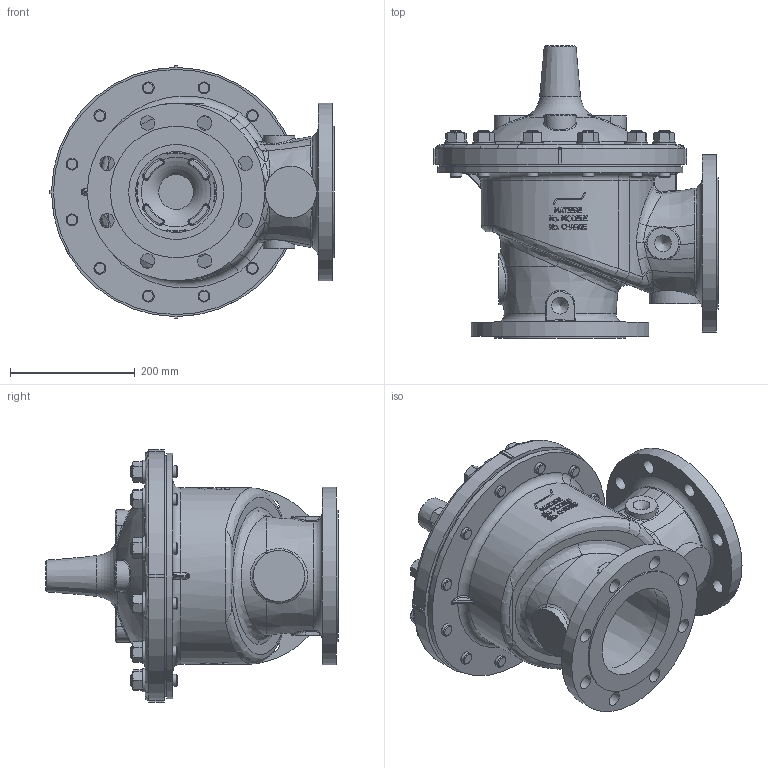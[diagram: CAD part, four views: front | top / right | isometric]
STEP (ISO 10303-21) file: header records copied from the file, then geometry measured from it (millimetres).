
FILE_DESCRIPTION(/* description */ (''),/* implementation_level */ '2;1');
FILE_NAME(/* name */ 'G:\Doc_Liberes\SymbolesCAD\Modeles_3D\FichierSTP\VanneDeBase\AE150-16RF.stp',/* time_stamp */ '2023-08-17T15:13:42+02:00',/* author */ ('theo'),/* organization */ (''),/* preprocessor_version */ 'ST-DEVELOPER v18.1',/* originating_system */ 'Autodesk Inventor 2022',/* authorisation */ '');
FILE_SCHEMA (('AUTOMOTIVE_DESIGN { 1 0 10303 214 3 1 1 }'));
Products named in the file (1): AE150_Simplifier_1
Bounding box: 457 x 469.9 x 406 mm (x, y, z)
Volume: 10333828.5 mm3; surface area: 1397917.9 mm2
Topology: 1 solids, 1 shells, 1940 faces, 5041 edges, 3239 vertices
Faces by surface type: plane 957, cone 388, bspline 340, cylinder 175, torus 78, sphere 2
Full cylindrical faces by diameter (mm): 19.05 x36, 22 x12, 23 x16, 37.313 x12, 50.8 x2, 55.6 x1, 82.55 x1, 152.4 x2, 190.5 x1, 195 x1, 200.28 x1, 211 x2, 285 x2, 387.058 x1, 387.3 x1, 393.7 x1
Entity records: 72747 total; most frequent: CARTESIAN_POINT 27911, ORIENTED_EDGE 10070, DIRECTION 8370, EDGE_CURVE 5035, VERTEX_POINT 3239, AXIS2_PLACEMENT_3D 3200, EDGE_LOOP 2140, LINE 1970
